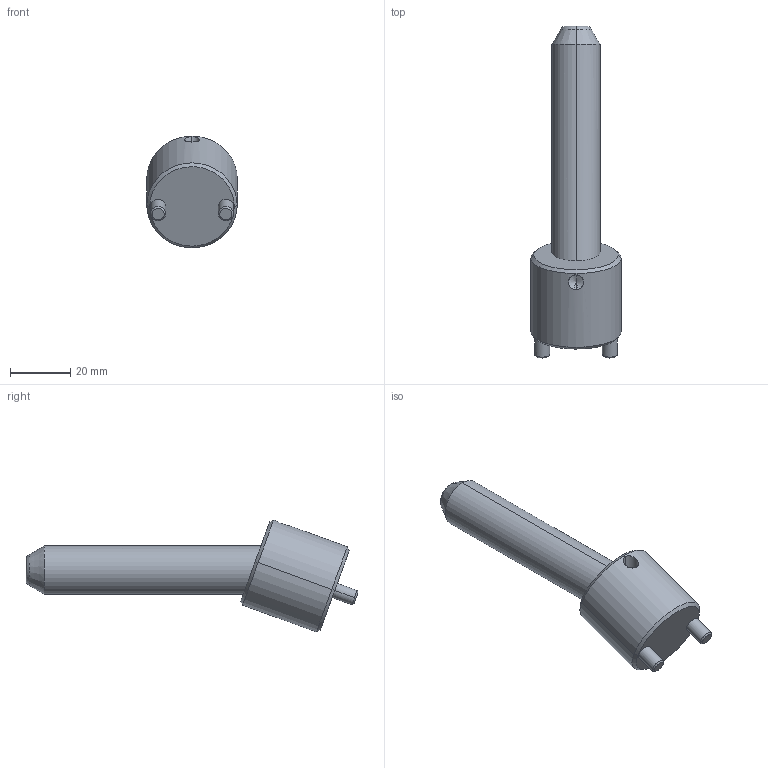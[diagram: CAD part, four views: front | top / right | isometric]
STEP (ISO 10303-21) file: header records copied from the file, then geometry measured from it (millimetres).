
FILE_DESCRIPTION(('CATIA V5 STEP Exchange'),'2;1');
FILE_NAME('C:\Users\Raffaele\Desktop\3D BOLEX\3D FILES CF BOLEX\19-INCLINED ASSEMBLY REF_CI\CI2016075.stp','2019-06-24T06:39:52+00:00',('none'),('none'),'CATIA Version 5 Release 20 GA (IN-10)','CATIA V5 STEP AP203','none');
FILE_SCHEMA(('CONFIG_CONTROL_DESIGN'));
Length unit declared in the file: millimetre
Products named in the file (1): CI2016075
Assembly tree (2 placements, depth 2):
  CI2016075
    #58
    #590
Bounding box: 30 x 110.07 x 37.08 mm (x, y, z)
Volume: 34338.2 mm3; surface area: 10692.4 mm2
Topology: 2 solids, 2 shells, 39 faces, 82 edges, 47 vertices
Faces by surface type: cone 14, cylinder 14, plane 7, torus 4
Entity records: 1491 total; most frequent: CARTESIAN_POINT 632, ORIENTED_EDGE 160, DIRECTION 145, EDGE_CURVE 80, AXIS2_PLACEMENT_3D 72, VERTEX_POINT 47, EDGE_LOOP 43, ADVANCED_FACE 39
